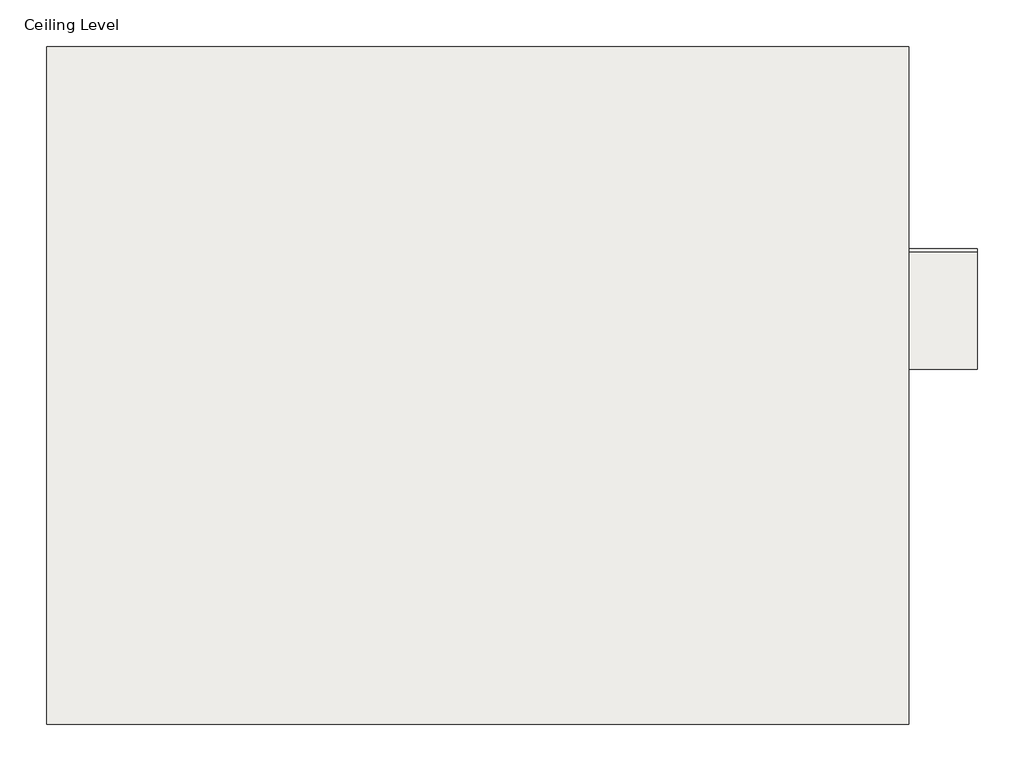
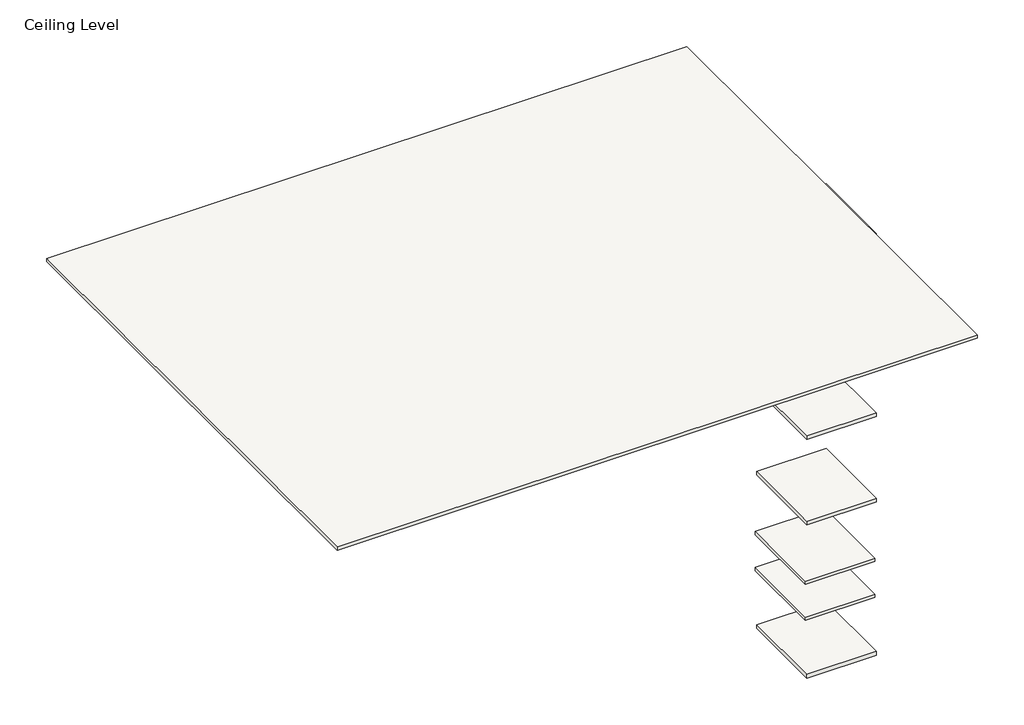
# One storey: 9 coverings.
"""IFC4 building model written with IfcOpenShell, lengths in millimetres."""

from ifc_helpers import new_model, si_unit, frame, origin, place, context, project, spatial, polyline, outline, extrude, element, save

model = new_model("IFC4")

# Units and contexts
model_context = context("Model", 3, world=origin())
ifc_project = project(units=[si_unit("LENGTHUNIT", "METRE", prefix="MILLI")], contexts=[model_context])

# Site, building, storey
site = spatial("IfcSite", under=ifc_project)
building = spatial("IfcBuilding", under=site)
storey = spatial("IfcBuildingStorey", under=building, Name="Ceiling Level", Elevation=0.0)

# Coverings
placement = place(None, origin())
element("IfcCovering", 1, ObjectType="Rockfon Krios Dznl/A100 (white) 1200 x 300 x 20 mm", at=placement, inside=storey, context=model_context, shape_type="SweptSolid", body=[
    extrude(outline(polyline([(-7026.7423739, 8843.6758075), (-7026.7423739, 5943.6758075), (-10716.7423739, 5943.6758075), (-10716.7423739, 8843.6758075), (-7026.7423739, 8843.6758075)])), frame((0.0, 0.0, 1.0), z_axis=(0.0, 0.0, 1.0), x_axis=(1.0, 0.0, 0.0)), (0.0, 0.0, 1.0), 20.0),
])
element("IfcCovering", 2, ObjectType="Rockfon Krios E24 (white) 1200 x 600 x 20 mm", at=placement, inside=storey, context=model_context, shape_type="SweptSolid", body=[
    extrude(outline(polyline([(-6733.0033126, 7976.3538049), (-6733.0033126, 7476.3538049), (-7133.0033126, 7476.3538049), (-7133.0033126, 7976.3538049), (-6733.0033126, 7976.3538049)])), frame((0.0, 0.0, -2611.8525093), z_axis=(0.0, 0.0, 1.0), x_axis=(1.0, 0.0, 0.0)), (0.0, 0.0, 1.0), 20.0),
])
element("IfcCovering", 3, ObjectType="Rockfon Krios E15 (white) 600 x 600 x 20 mm", at=placement, inside=storey, context=model_context, shape_type="SweptSolid", body=[
    extrude(outline(polyline([(-6733.0033126, 7978.0137254), (-6733.0033126, 7478.0137254), (-7133.0033126, 7478.0137254), (-7133.0033126, 7978.0137254), (-6733.0033126, 7978.0137254)])), frame((0.0, 0.0, -2393.257621), z_axis=(0.0, 0.0, 1.0), x_axis=(1.0, 0.0, 0.0)), (0.0, 0.0, 1.0), 20.0),
])
element("IfcCovering", 4, ObjectType="Rockfon Krios A24 (white) 600 x 600 x 20 mm", at=placement, inside=storey, context=model_context, shape_type="SweptSolid", body=[
    extrude(outline(polyline([(-6733.0033126, 7962.8104331), (-6733.0033126, 7462.8104331), (-7133.0033126, 7462.8104331), (-7133.0033126, 7962.8104331), (-6733.0033126, 7962.8104331)])), frame((0.0, 0.0, -734.9701504), z_axis=(0.0, 0.0, 1.0), x_axis=(1.0, 0.0, 0.0)), (0.0, 0.0, 1.0), 20.0),
])
element("IfcCovering", 5, ObjectType="Rockfon Krios D (white) 600 x 600 x 20 mm", at=placement, inside=storey, context=model_context, shape_type="SweptSolid", body=[
    extrude(outline(polyline([(-6733.0033126, 7963.8546161), (-6733.0033126, 7463.8546161), (-7133.0033126, 7463.8546161), (-7133.0033126, 7963.8546161), (-6733.0033126, 7963.8546161)])), frame((0.0, 0.0, -1100.0), z_axis=(0.0, 0.0, 1.0), x_axis=(1.0, 0.0, 0.0)), (0.0, 0.0, 1.0), 20.0),
])
element("IfcCovering", 6, ObjectType="Rockfon Krios X (white) 600 x 600 x 22 mm", at=placement, inside=storey, context=model_context, shape_type="SweptSolid", body=[
    extrude(outline(polyline([(-6733.0033126, 7962.8104331), (-6733.0033126, 7462.8104331), (-7133.0033126, 7462.8104331), (-7133.0033126, 7962.8104331), (-6733.0033126, 7962.8104331)])), frame((0.0, 0.0, -2954.9701504), z_axis=(0.0, 0.0, 1.0), x_axis=(1.0, 0.0, 0.0)), (0.0, 0.0, 1.0), 22.0),
])
element("IfcCovering", 7, ObjectType="Rockfon Krios Dznl/A100 (white) 1200 x 300 x 20 mm", at=placement, inside=storey, context=model_context, shape_type="SweptSolid", body=[
    extrude(outline(polyline([(-6733.0033126, 7963.8546161), (-6733.0033126, 7463.8546161), (-7133.0033126, 7463.8546161), (-7133.0033126, 7963.8546161), (-6733.0033126, 7963.8546161)])), frame((0.0, 0.0, -1500.0), z_axis=(0.0, 0.0, 1.0), x_axis=(1.0, 0.0, 0.0)), (0.0, 0.0, 1.0), 20.0),
])
element("IfcCovering", 8, ObjectType="Rockfon Krios Dznl/A24 (white) 1200 x 300 x 20 mm", at=placement, inside=storey, context=model_context, shape_type="SweptSolid", body=[
    extrude(outline(polyline([(-6733.0033126, 7963.8546161), (-6733.0033126, 7463.8546161), (-7133.0033126, 7463.8546161), (-7133.0033126, 7963.8546161), (-6733.0033126, 7963.8546161)])), frame((0.0, 0.0, -2020.0), z_axis=(0.0, 0.0, 1.0), x_axis=(1.0, 0.0, 0.0)), (0.0, 0.0, 1.0), 20.0),
])
element("IfcCovering", 9, ObjectType="Rockfon Krios A15 (white) 600 x 600 x 20 mm", at=placement, inside=storey, context=model_context, shape_type="SweptSolid", body=[
    extrude(outline(polyline([(-6733.0033126, 7963.5031294), (-6733.0033126, 7463.5031294), (-7133.0033126, 7463.5031294), (-7133.0033126, 7963.5031294), (-6733.0033126, 7963.5031294)])), frame((0.0, 0.0, -405.3983554), z_axis=(0.0, 0.0, 1.0), x_axis=(1.0, 0.0, 0.0)), (0.0, 0.0, 1.0), 20.0),
])

save(model, "model.ifc")
